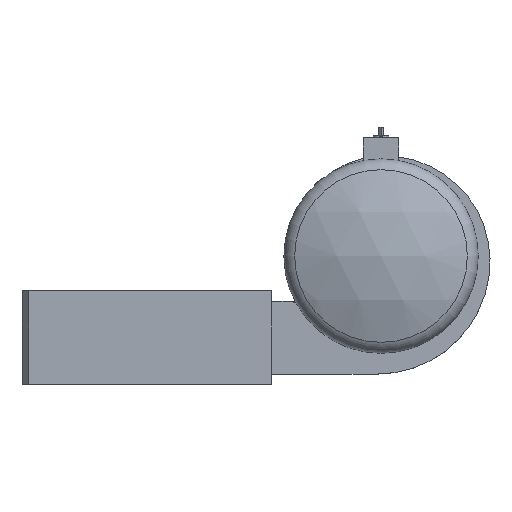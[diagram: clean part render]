
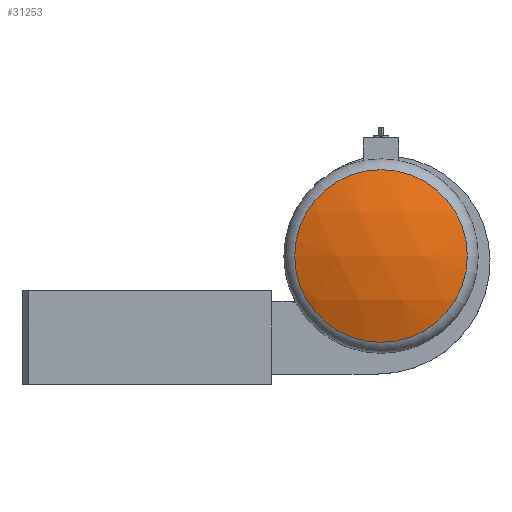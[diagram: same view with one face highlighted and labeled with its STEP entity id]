
A CAD part, top view. The second image highlights one B-rep face of the part: STEP entity #31253.
In plain terms, the highlighted spherical face has radius 400 mm.
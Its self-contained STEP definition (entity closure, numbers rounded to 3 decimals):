
#14=SPHERICAL_SURFACE('',#32825,400.);
#1526=CIRCLE('',#32826,157.638);
#3959=FACE_OUTER_BOUND('',#5726,.T.);
#5726=EDGE_LOOP('',(#24954));
#15475=VERTEX_POINT('',#53724);
#18961=EDGE_CURVE('',#15475,#15475,#1526,.T.);
#24954=ORIENTED_EDGE('',*,*,#18961,.T.);
#31253=ADVANCED_FACE('',(#3959),#14,.T.);
#32825=AXIS2_PLACEMENT_3D('',#53723,#35795,#35796);
#32826=AXIS2_PLACEMENT_3D('',#53725,#35797,#35798);
#35795=DIRECTION('center_axis',(0.,-1.,0.));
#35796=DIRECTION('ref_axis',(1.,0.,0.));
#35797=DIRECTION('center_axis',(0.,0.,
1.));
#35798=DIRECTION('ref_axis',(-1.,0.,0.));
#53723=CARTESIAN_POINT('Origin',(0.,0.,
5.5));
#53724=CARTESIAN_POINT('',(-157.638,0.,373.128));
#53725=CARTESIAN_POINT('Origin',(0.,0.,
373.128));
